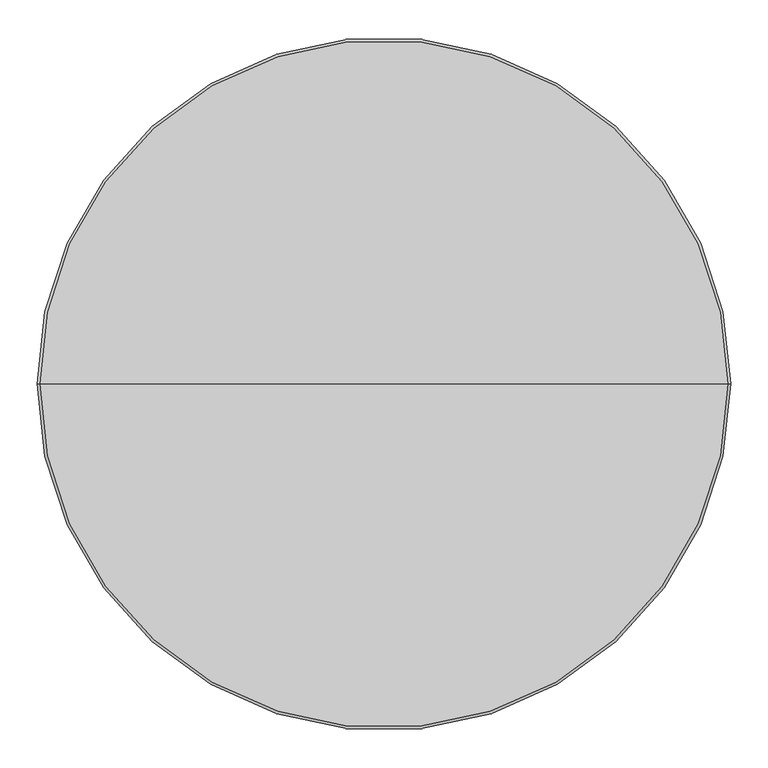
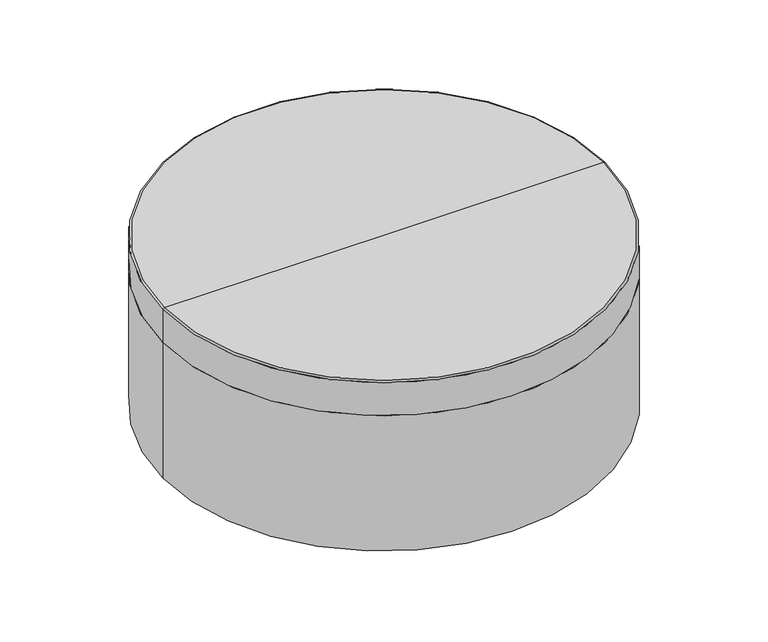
"""IFC4 building model written with IfcOpenShell, lengths in millimetres: furniture geometry, StanceHC-Drum_Table : 3-DRT36D16-U."""

from ifc_helpers import new_model, si_unit, point, frame, frame_2d, origin, origin_with_axes, place, context, project, spatial, circle_curve, ellipse_curve, trimmed, segment, composite_curve, outline, extrude, source, transform, mapped, element, save
from ifc_brep_helpers import plane_surface, cylinder_surface, revolved_surface, advanced_brep


def furniture_1ac0fee3(model_context):
    return source(origin(), model_context, "Body", "SolidModel", [
        extrude(outline(composite_curve([segment(trimmed(circle_curve(frame_2d((0.0, 402.5164845)), 12.7), [point((-12.7, 402.5164845))], [point((12.7, 402.5164845))], False, "CARTESIAN"), True, "CONTINUOUS"), segment(trimmed(circle_curve(frame_2d((0.0, 402.5164845)), 12.7), [point((12.7, 402.5164845))], [point((-12.7, 402.5164845))], False, "CARTESIAN"), True, "CONTINUOUS")], self_intersect=False)), origin_with_axes(), (0.0, 0.0, 1.0), 4.7625),
        extrude(outline(composite_curve([segment(trimmed(circle_curve(frame_2d((0.0, -402.5164845)), 12.7), [point((-12.7, -402.5164845))], [point((12.7, -402.5164845))], False, "CARTESIAN"), True, "CONTINUOUS"), segment(trimmed(circle_curve(frame_2d((0.0, -402.5164845)), 12.7), [point((12.7, -402.5164845))], [point((-12.7, -402.5164845))], False, "CARTESIAN"), True, "CONTINUOUS")], self_intersect=False)), origin_with_axes(), (0.0, 0.0, 1.0), 4.7625),
        extrude(outline(composite_curve([segment(trimmed(circle_curve(frame_2d((406.3996404, 0.0)), 12.7), [point((393.6996404, 0.0))], [point((419.0996404, 0.0))], False, "CARTESIAN"), True, "CONTINUOUS"), segment(trimmed(circle_curve(frame_2d((406.3996404, 0.0)), 12.7), [point((419.0996404, 0.0))], [point((393.6996404, 0.0))], False, "CARTESIAN"), True, "CONTINUOUS")], self_intersect=False)), origin_with_axes(), (0.0, 0.0, 1.0), 4.7625),
        extrude(outline(composite_curve([segment(trimmed(circle_curve(frame_2d((-406.3996404, 0.0)), 12.7), [point((-419.0996404, 0.0))], [point((-393.6996404, 0.0))], False, "CARTESIAN"), True, "CONTINUOUS"), segment(trimmed(circle_curve(frame_2d((-406.3996404, 0.0)), 12.7), [point((-393.6996404, 0.0))], [point((-419.0996404, 0.0))], False, "CARTESIAN"), True, "CONTINUOUS")], self_intersect=False)), origin_with_axes(), (0.0, 0.0, 1.0), 4.7625),
        advanced_brep(
        [(0.0, 0.0, 304.8), (463.55, 0.0, 304.8), (-463.55, 0.0, 304.8), (-463.55, 0.0, 4.7625), (463.55, 0.0, 4.7625), (0.0, 0.0, 4.7625)],
        [
            (0, 1),
            (1, 2, circle_curve(frame((0.0, 0.0, 304.8), z_axis=(0.0, 0.0, 1.0), x_axis=(1.0, 0.0, 0.0)), 463.55)),
            (2, 0),
            (2, 1, circle_curve(frame((0.0, 0.0, 304.8), z_axis=(0.0, 0.0, 1.0), x_axis=(1.0, 0.0, 0.0)), 463.55)),
            (3, 4, circle_curve(frame((0.0, 0.0, 4.7625), z_axis=(0.0, 0.0, -1.0), x_axis=(1.0, 0.0, 0.0)), 463.55)),
            (4, 5),
            (5, 3),
            (4, 3, circle_curve(frame((0.0, 0.0, 4.7625), z_axis=(0.0, 0.0, -1.0), x_axis=(1.0, 0.0, 0.0)), 463.55)),
            (1, 4),
            (3, 2),
        ],
        [
            plane_surface(frame((0.0, 0.0, 304.8), z_axis=(0.0, 0.0, 1.0), x_axis=(1.0, 0.0, 0.0))),
            plane_surface(frame((0.0, 0.0, 4.7625), z_axis=(0.0, 0.0, -1.0), x_axis=(1.0, 0.0, 0.0))),
            cylinder_surface(frame((0.0, 0.0, 457.2), z_axis=(0.0, 0.0, 1.0), x_axis=(1.0, 0.0, 0.0)), 463.55),
        ],
        [
            (0, [[1, 2, 3]]),
            (0, [[-3, 4, -1]]),
            (1, [[5, 6, 7]]),
            (1, [[8, -7, -6]]),
            (2, [[-2, 9, -5, 10]]),
            (2, [[-4, -10, -8, -9]]),
        ],
    ),
        advanced_brep(
        [(-463.55, 0.0, 304.8), (463.55, 0.0, 304.8), (0.0, 0.0, 304.8), (-463.55, 0.0, 377.8764933), (463.55, 0.0, 377.8764933), (-460.4264933, 0.0, 381.0), (460.4264933, 0.0, 381.0), (0.0, 0.0, 381.0)],
        [
            (0, 1, circle_curve(frame((0.0, 0.0, 304.8), z_axis=(0.0, 0.0, -1.0), x_axis=(1.0, 0.0, 0.0)), 463.55)),
            (1, 2),
            (2, 0),
            (1, 0, circle_curve(frame((0.0, 0.0, 304.8), z_axis=(0.0, 0.0, -1.0), x_axis=(1.0, 0.0, 0.0)), 463.55)),
            (3, 4, circle_curve(frame((0.0, 0.0, 377.8764933), z_axis=(0.0, 0.0, -1.0), x_axis=(1.0, 0.0, 0.0)), 463.55)),
            (4, 1),
            (0, 3),
            (4, 3, circle_curve(frame((0.0, 0.0, 377.8764933), z_axis=(0.0, 0.0, -1.0), x_axis=(1.0, 0.0, 0.0)), 463.55)),
            (5, 6, circle_curve(frame((0.0, 0.0, 381.0), z_axis=(0.0, 0.0, -1.0), x_axis=(1.0, 0.0, 0.0)), 460.4264933)),
            (6, 4, circle_curve(frame((460.4264933, 0.0, 377.8764933), z_axis=(0.0, 1.0, 0.0), x_axis=(1.0, 0.0, 0.0)), 3.1235067)),
            (3, 5, circle_curve(frame((-460.4264933, 0.0, 377.8764933), z_axis=(0.0, 1.0, 0.0), x_axis=(-1.0, 0.0, 0.0)), 3.1235067)),
            (6, 5, circle_curve(frame((0.0, 0.0, 381.0), z_axis=(0.0, 0.0, -1.0), x_axis=(1.0, 0.0, 0.0)), 460.4264933)),
            (7, 6),
            (5, 7),
        ],
        [
            plane_surface(frame((0.0, 0.0, 304.8), z_axis=(0.0, 0.0, -1.0), x_axis=(1.0, 0.0, 0.0))),
            cylinder_surface(frame((0.0, 0.0, 476.25), z_axis=(0.0, 0.0, 1.0), x_axis=(1.0, 0.0, 0.0)), 463.55),
            revolved_surface(trimmed(ellipse_curve(frame((460.4264933, 0.0, 377.8764933), z_axis=(0.0, -1.0, 0.0), x_axis=(1.0, 0.0, 0.0)), 3.1235067, 3.1235067), [point((463.55, 0.0, 377.8764933))], [point((460.4264933, 0.0, 381.0))], True, "CARTESIAN"), (0.0, 0.0, 476.25), (0.0, 0.0, 1.0)),
            plane_surface(frame((0.0, 0.0, 381.0), z_axis=(0.0, 0.0, 1.0), x_axis=(1.0, 0.0, 0.0))),
        ],
        [
            (0, [[1, 2, 3]]),
            (0, [[4, -3, -2]]),
            (1, [[5, 6, -1, 7]]),
            (1, [[8, -7, -4, -6]]),
            (2, [[9, 10, -5, 11]]),
            (2, [[12, -11, -8, -10]]),
            (3, [[13, -9, 14]]),
            (3, [[-14, -12, -13]]),
        ],
    ),
    ])


if __name__ == "__main__":
    model = new_model("IFC4")
    model_context = context("Model", 3, world=origin())
    ifc_project = project(units=[si_unit("LENGTHUNIT", "METRE", prefix="MILLI")], contexts=[model_context])
    site = spatial("IfcSite", under=ifc_project)
    building = spatial("IfcBuilding", under=site)
    placement = place(None, origin())
    furniture_shape = furniture_1ac0fee3(model_context)
    element("IfcFurniture", 1, ObjectType="StanceHC-Drum_Table : 3-DRT36D16-U", at=placement, inside=building, context=model_context, shape_type="MappedRepresentation", body=[
        mapped(furniture_shape, transform((0.0, 0.0, 0.0), x_axis=(1.0, 0.0, 0.0), y_axis=(0.0, 1.0, 0.0), z_axis=(0.0, 0.0, 1.0))),
    ])
    save(model, "model.ifc")
